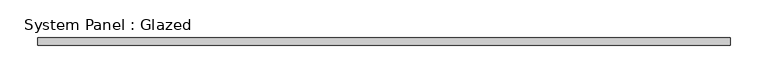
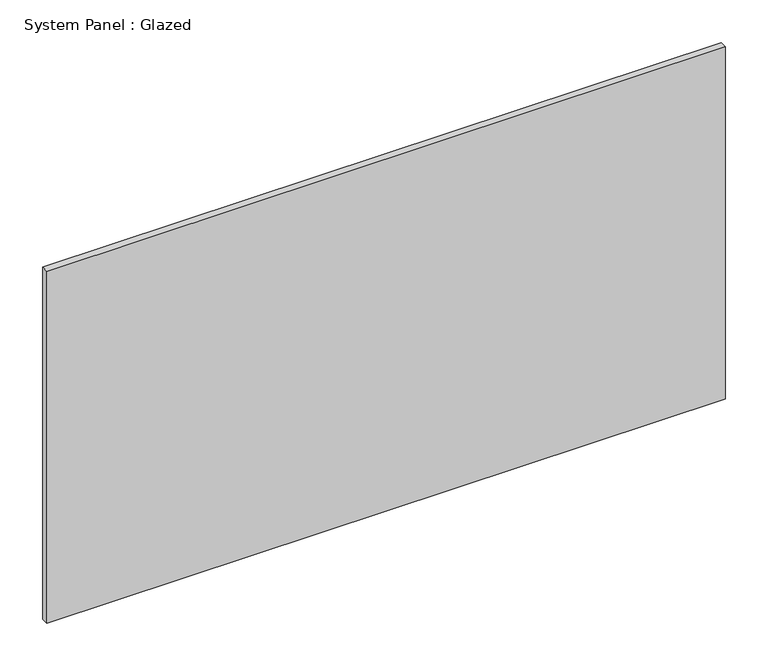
"""IFC4 building model written with IfcOpenShell, lengths in millimetres: plate geometry, System Panel : Glazed."""

from ifc_helpers import new_model, si_unit, origin, origin_with_axes, place, context, project, spatial, polyline, outline, extrude, source, transform, mapped, element, save


def system_panel_glazed_2402f51b(model_context):
    return source(origin(), model_context, "Body", "SweptSolid", [
        extrude(outline(polyline([(460.0715535, -5.0), (-460.0715535, -5.0), (-460.0715535, 5.0), (460.0715535, 5.0), (460.0715535, -5.0)])), origin_with_axes(), (0.0, 0.0, 1.0), 505.0),
    ])


if __name__ == "__main__":
    model = new_model("IFC4")
    model_context = context("Model", 3, world=origin())
    ifc_project = project(units=[si_unit("LENGTHUNIT", "METRE", prefix="MILLI")], contexts=[model_context])
    site = spatial("IfcSite", under=ifc_project)
    building = spatial("IfcBuilding", under=site)
    placement = place(None, origin())
    system_panel_glazed_shape = system_panel_glazed_2402f51b(model_context)
    element("IfcPlate", 1, ObjectType="System Panel : Glazed", at=placement, inside=building, context=model_context, shape_type="MappedRepresentation", body=[
        mapped(system_panel_glazed_shape, transform((0.0, 0.0, 0.0), x_axis=(1.0, 0.0, 0.0), y_axis=(0.0, 1.0, 0.0), z_axis=(0.0, 0.0, 1.0))),
    ])
    save(model, "model.ifc")
